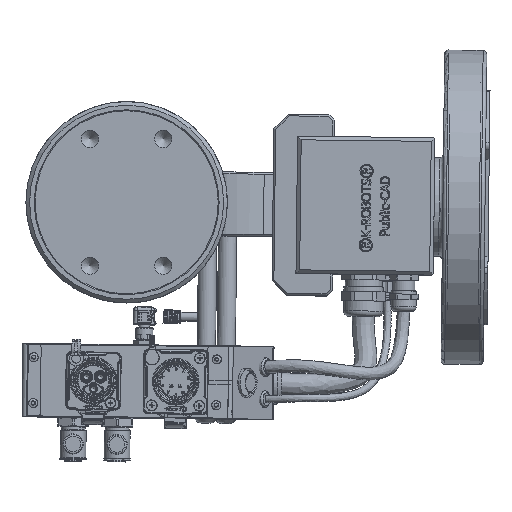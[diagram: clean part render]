
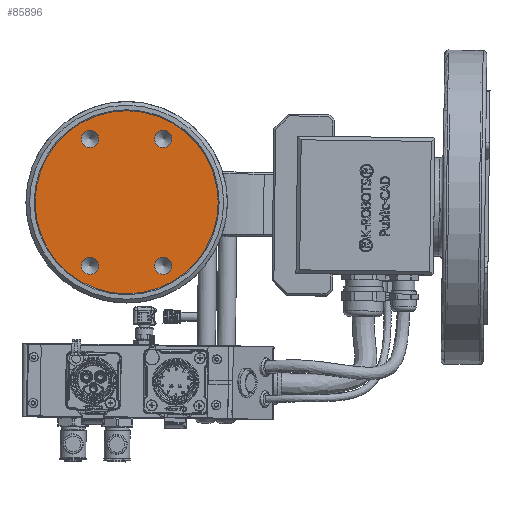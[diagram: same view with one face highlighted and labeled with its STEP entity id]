
A CAD part, top view. The second image highlights one B-rep face of the part: STEP entity #85896.
In plain terms, the highlighted planar face has unit normal (0, 0, 1).
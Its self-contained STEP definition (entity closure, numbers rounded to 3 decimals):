
#2120=CIRCLE('',#90103,50.);
#2123=CIRCLE('',#90108,4.75);
#2124=CIRCLE('',#90110,4.75);
#2125=CIRCLE('',#90112,4.75);
#2126=CIRCLE('',#90113,4.75);
#9146=FACE_BOUND('',#16110,.T.);
#9147=FACE_BOUND('',#16111,.T.);
#9148=FACE_BOUND('',#16112,.T.);
#9149=FACE_BOUND('',#16113,.T.);
#9673=PLANE('',#90111);
#11812=FACE_OUTER_BOUND('',#16109,.T.);
#16109=EDGE_LOOP('',(#63263));
#16110=EDGE_LOOP('',(#63264));
#16111=EDGE_LOOP('',(#63265));
#16112=EDGE_LOOP('',(#63266));
#16113=EDGE_LOOP('',(#63267));
#38793=VERTEX_POINT('',#122770);
#38796=VERTEX_POINT('',#122780);
#38798=VERTEX_POINT('',#122785);
#38800=VERTEX_POINT('',#122790);
#38801=VERTEX_POINT('',#122792);
#48563=EDGE_CURVE('',#38793,#38793,#2120,.T.);
#48568=EDGE_CURVE('',#38796,#38796,#2123,.T.);
#48570=EDGE_CURVE('',#38798,#38798,#2124,.T.);
#48572=EDGE_CURVE('',#38800,#38800,#2125,.T.);
#48573=EDGE_CURVE('',#38801,#38801,#2126,.T.);
#63263=ORIENTED_EDGE('',*,*,#48563,.F.);
#63264=ORIENTED_EDGE('',*,*,#48572,.F.);
#63265=ORIENTED_EDGE('',*,*,#48568,.F.);
#63266=ORIENTED_EDGE('',*,*,#48573,.F.);
#63267=ORIENTED_EDGE('',*,*,#48570,.F.);
#85896=ADVANCED_FACE('',(#11812,#9146,#9147,#9148,#9149),#9673,.T.);
#90103=AXIS2_PLACEMENT_3D('',#122771,#97763,#97764);
#90108=AXIS2_PLACEMENT_3D('',#122781,#97775,#97776);
#90110=AXIS2_PLACEMENT_3D('',#122786,#97780,#97781);
#90111=AXIS2_PLACEMENT_3D('',#122789,#97783,#97784);
#90112=AXIS2_PLACEMENT_3D('',#122791,#97785,#97786);
#90113=AXIS2_PLACEMENT_3D('',#122793,#97787,#97788);
#97763=DIRECTION('center_axis',(0.,0.,
-1.));
#97764=DIRECTION('ref_axis',(-1.,0.,0.));
#97775=DIRECTION('center_axis',(0.,0.,
1.));
#97776=DIRECTION('ref_axis',(-1.,0.,0.));
#97780=DIRECTION('center_axis',(0.,0.,
1.));
#97781=DIRECTION('ref_axis',(-1.,0.,0.));
#97783=DIRECTION('center_axis',(0.,0.,
1.));
#97784=DIRECTION('ref_axis',(1.,0.,0.));
#97785=DIRECTION('center_axis',(0.,0.,
1.));
#97786=DIRECTION('ref_axis',(-1.,0.,0.));
#97787=DIRECTION('center_axis',(0.,0.,
1.));
#97788=DIRECTION('ref_axis',(-1.,0.,0.));
#122770=CARTESIAN_POINT('',(-41.317,64.758,185.));
#122771=CARTESIAN_POINT('Origin',(-91.317,64.758,185.));
#122780=CARTESIAN_POINT('',(-106.567,30.117,185.));
#122781=CARTESIAN_POINT('Origin',(-111.317,30.117,185.));
#122785=CARTESIAN_POINT('',(-66.567,99.399,185.));
#122786=CARTESIAN_POINT('Origin',(-71.317,99.399,185.));
#122789=CARTESIAN_POINT('Origin',(-91.317,64.758,185.));
#122790=CARTESIAN_POINT('',(-66.567,30.117,185.));
#122791=CARTESIAN_POINT('Origin',(-71.317,30.117,185.));
#122792=CARTESIAN_POINT('',(-106.567,99.399,185.));
#122793=CARTESIAN_POINT('Origin',(-111.317,99.399,185.));
